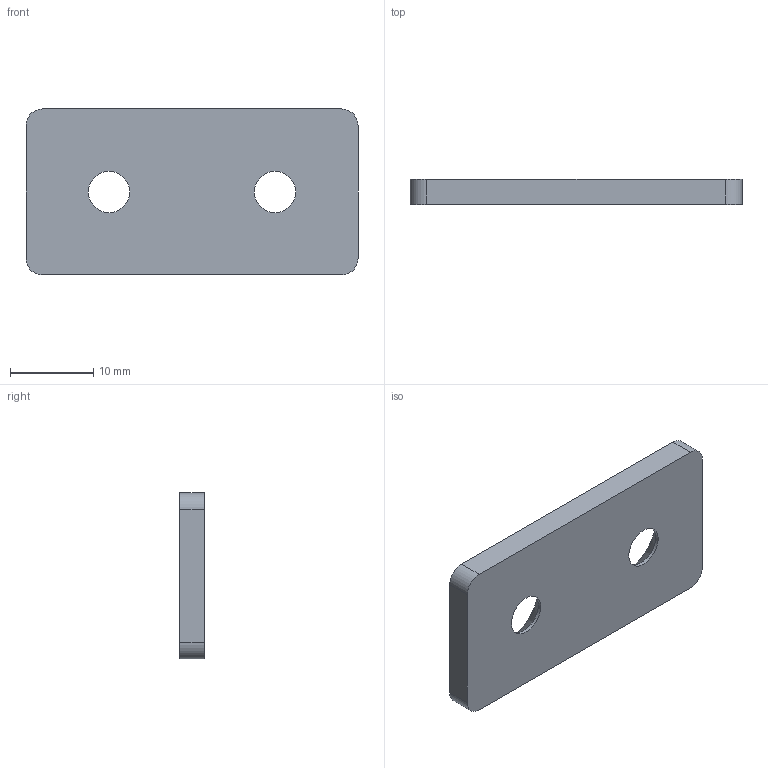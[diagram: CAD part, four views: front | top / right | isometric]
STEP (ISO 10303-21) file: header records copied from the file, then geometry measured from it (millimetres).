
FILE_DESCRIPTION( ( 'STEP AP203' ), '1' );
FILE_NAME( 'C:/Temp/Ganter_Step_05_03_2020/data/3_7/gn_967/gn_967_1/gn_967_1_f/Shackle GN 967-20-40-F-1-SR.stp', '2020-03-12T14:48:19', ( 'License CC BY-ND 4.0' ), ( 'CADENAS' ), ' ', 'PARTsolutions', ' ' );
FILE_SCHEMA( ( 'CONFIG_CONTROL_DESIGN' ) );
Length unit declared in the file: millimetre
Products named in the file (1): _Shackle GN 967-20-40-F-1-SR
Bounding box: 40 x 3 x 20 mm (x, y, z)
Volume: 2128.9 mm3; surface area: 1928.3 mm2
Topology: 1 solids, 1 shells, 14 faces, 34 edges, 22 vertices
Faces by surface type: plane 6, cylinder 6, cone 2
Full cylindrical faces by diameter (mm): 5 x2
Entity records: 448 total; most frequent: DIRECTION 74, CARTESIAN_POINT 67, ORIENTED_EDGE 60, EDGE_CURVE 30, AXIS2_PLACEMENT_3D 29, EDGE_LOOP 22, VERTEX_POINT 22, FACE_OUTER_BOUND 16
